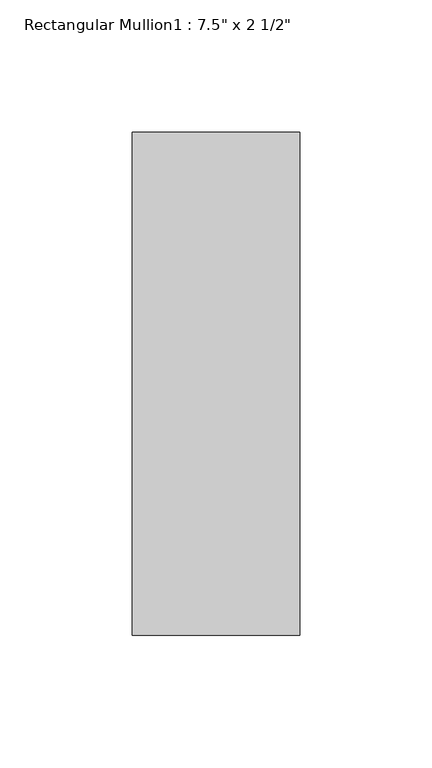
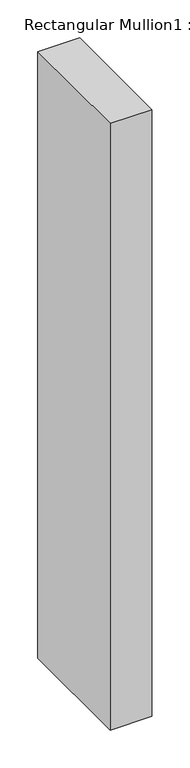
"""IFC4 building model written with IfcOpenShell, lengths in millimetres: member geometry."""

import ifcopenshell
import ifcopenshell.guid

model = None  # the IFC model being written
_history = None  # IfcOwnerHistory: only IFC2X3 demands one
_inside = {}  # id of a spatial element -> (the spatial element, [elements in it])
_under = {}  # id of a project, library or spatial element -> (it, [spatial elements below it])
_declared = {}  # id of a project -> (the project, [libraries it declares])
_typed = {}  # id of a type object -> (the type object, [elements of that type])
_made_of = {}  # id of a material, layer set ... -> (it, [elements and type objects made of it])


def new_model(schema):
    """Start an empty IFC model of exactly this schema.

    Asked for "IFC4X3", IfcOpenShell would pick the latest addendum, in which some entities
    have other attributes; the version numbers below select the first issue.
    IFC2X3 requires an IfcOwnerHistory on every rooted entity: one is made here for all.
    """
    global model, _history
    if schema == "IFC4X3":
        model = ifcopenshell.file(schema_version=(4, 3, 0, 0))
    else:
        model = ifcopenshell.file(schema=schema)
    _inside.clear()
    _under.clear()
    _declared.clear()
    _typed.clear()
    _made_of.clear()
    _history = None
    if model.schema == "IFC2X3":
        org = make("IfcOrganization", Name="unknown")
        user = make(
            "IfcPersonAndOrganization",
            ThePerson=make("IfcPerson", FamilyName="unknown"),
            TheOrganization=org,
        )
        app = make(
            "IfcApplication",
            ApplicationDeveloper=org,
            Version="unknown",
            ApplicationFullName="unknown",
            ApplicationIdentifier="unknown",
        )
        _history = make(
            "IfcOwnerHistory",
            OwningUser=user,
            OwningApplication=app,
            ChangeAction="ADDED",
            CreationDate=0,
        )
    return model


def make(cls, **values):
    """One entity of the class cls with the attributes given. An attribute that is None is left unset."""
    return model.create_entity(
        cls, **{name: value for name, value in values.items() if value is not None}
    )


def rooted(cls, **values):
    """An entity with a GlobalId (a new one), such as an element, a storey or a relation."""
    return make(cls, GlobalId=ifcopenshell.guid.new(), OwnerHistory=_history, **values)


def si_unit(unit_type, name, prefix=None):
    """IfcSIUnit, for example si_unit("LENGTHUNIT", "METRE", prefix="MILLI")."""
    return make("IfcSIUnit", UnitType=unit_type, Prefix=prefix, Name=name)


def assignment(units):
    """IfcUnitAssignment: the units of a project."""
    return None if units is None else make("IfcUnitAssignment", Units=units)


def point(xyz):
    """IfcCartesianPoint."""
    return None if xyz is None else make("IfcCartesianPoint", Coordinates=xyz)


def direction(xyz):
    """IfcDirection."""
    return None if xyz is None else make("IfcDirection", DirectionRatios=xyz)


def frame(location, z_axis=None, x_axis=None):
    """IfcAxis2Placement3D, a coordinate frame: its origin and axes. An axis left out is left unset."""
    return make(
        "IfcAxis2Placement3D",
        Location=point(location),
        Axis=direction(z_axis),
        RefDirection=direction(x_axis),
    )


def origin():
    """The frame at (0, 0, 0) with its axes left unset."""
    return frame((0.0, 0.0, 0.0))


def place(relative_to, where):
    """IfcLocalPlacement: puts the frame where relative to a parent placement (None: the world)."""
    return make(
        "IfcLocalPlacement", PlacementRelTo=relative_to, RelativePlacement=where
    )


def context(
    kind, dimensions, precision=None, world=None, true_north=None, identifier=None
):
    """IfcGeometricRepresentationContext, for example the 3D "Model" context."""
    return make(
        "IfcGeometricRepresentationContext",
        ContextIdentifier=identifier,
        ContextType=kind,
        CoordinateSpaceDimension=dimensions,
        Precision=precision,
        WorldCoordinateSystem=world,
        TrueNorth=true_north,
    )


def project(units=None, contexts=None):
    """IfcProject with its units and contexts."""
    return rooted(
        "IfcProject",
        Name="project",
        RepresentationContexts=contexts,
        UnitsInContext=assignment(units),
    )


def spatial(cls, under=None, at=None, **own):
    """A site, building, storey or space (cls), placed at a placement, below another one or the project."""
    s = rooted(cls, ObjectPlacement=at, **own)
    if under is not None:
        _under.setdefault(under.id(), (under, []))[1].append(s)
    return s


def polyline(points):
    """IfcPolyline through the points."""
    return make("IfcPolyline", Points=[point(p) for p in points])


def outline(outer, holes=None, kind="AREA"):
    """IfcArbitraryClosedProfileDef: a profile drawn as a closed curve; with holes, ...WithVoids."""
    if holes is None:
        return make("IfcArbitraryClosedProfileDef", ProfileType=kind, OuterCurve=outer)
    return make(
        "IfcArbitraryProfileDefWithVoids",
        ProfileType=kind,
        OuterCurve=outer,
        InnerCurves=holes,
    )


def extrude(swept, where, along, depth):
    """IfcExtrudedAreaSolid: the profile swept, set in the frame where, extruded along a direction by depth."""
    return make(
        "IfcExtrudedAreaSolid",
        SweptArea=swept,
        Position=where,
        ExtrudedDirection=direction(along),
        Depth=depth,
    )


def shape(context_of_items, identifier, shape_type, items):
    """IfcShapeRepresentation: the items that make up one representation, for example the "Body"."""
    return make(
        "IfcShapeRepresentation",
        ContextOfItems=context_of_items,
        RepresentationIdentifier=identifier,
        RepresentationType=shape_type,
        Items=items,
    )


def source(mapping_origin, context_of_items, identifier, shape_type, items):
    """IfcRepresentationMap: a shape defined once, which mapped items show again and again."""
    return make(
        "IfcRepresentationMap",
        MappingOrigin=mapping_origin,
        MappedRepresentation=shape(context_of_items, identifier, shape_type, items),
    )


def transform(
    local_origin,
    x_axis=None,
    y_axis=None,
    z_axis=None,
    scale=None,
    scale2=None,
    scale3=None,
    uniform=True,
):
    """IfcCartesianTransformationOperator3D, or its non-uniform kind. x_axis, y_axis, z_axis: its Axis1, 2, 3."""
    if uniform:
        return make(
            "IfcCartesianTransformationOperator3D",
            Axis1=direction(x_axis),
            Axis2=direction(y_axis),
            LocalOrigin=point(local_origin),
            Scale=scale,
            Axis3=direction(z_axis),
        )
    return make(
        "IfcCartesianTransformationOperator3DnonUniform",
        Axis1=direction(x_axis),
        Axis2=direction(y_axis),
        LocalOrigin=point(local_origin),
        Scale=scale,
        Axis3=direction(z_axis),
        Scale2=scale2,
        Scale3=scale3,
    )


def mapped(mapping_source, mapping_target):
    """IfcMappedItem: shows the shape of a source again, moved by a transform."""
    return make(
        "IfcMappedItem", MappingSource=mapping_source, MappingTarget=mapping_target
    )


def made_of(thing, what):
    """Note that an element or type object is made of a material, layer set ...; save() writes the relation."""
    if what is not None:
        _made_of.setdefault(what.id(), (what, []))[1].append(thing)
    return thing


def element(
    cls,
    number,
    at=None,
    inside=None,
    cuts=None,
    type_object=None,
    material=None,
    context=None,
    identifier="Body",
    shape_type=None,
    held_by="IfcProductDefinitionShape",
    body=None,
    shapes=None,
    **own,
):
    """One element of the class cls, such as IfcWall. Its Tag is "e" and its number.

    at: its placement. inside: the storey or other place that contains it. cuts: it is an
    opening in that element (IfcRelVoidsElement). A single representation is given by context,
    identifier, shape_type and body (its items); several are given by shapes. held_by: the class
    of the entity that holds the representations. save() writes the other relations.
    """
    e = rooted(cls, Tag="e%d" % number, ObjectPlacement=at, **own)
    if body is not None:
        shapes = [shape(context, identifier, shape_type, body)]
    if shapes is not None:
        e.Representation = make(held_by, Representations=shapes)
    if inside is not None:
        _inside.setdefault(inside.id(), (inside, []))[1].append(e)
    if cuts is not None:
        rooted(
            "IfcRelVoidsElement", RelatingBuildingElement=cuts, RelatedOpeningElement=e
        )
    if type_object is not None:
        _typed.setdefault(type_object.id(), (type_object, []))[1].append(e)
    return made_of(e, material)


def aggregate(whole, parts):
    """IfcRelAggregates: a whole, such as a stair, and the parts it consists of."""
    return rooted("IfcRelAggregates", RelatingObject=whole, RelatedObjects=parts)


def save(model, path):
    """Write the relations noted so far, then the file.

    IfcRelAggregates (storeys below a building ...), IfcRelContainedInSpatialStructure (elements
    in a storey), IfcRelDefinesByType, IfcRelAssociatesMaterial and IfcRelDeclares: one each for
    every whole, place, type object, material and project.
    """
    for whole, parts in _under.values():
        aggregate(whole, parts)
    for where, things in _inside.values():
        rooted(
            "IfcRelContainedInSpatialStructure",
            RelatedElements=things,
            RelatingStructure=where,
        )
    for kind, things in _typed.values():
        rooted("IfcRelDefinesByType", RelatedObjects=things, RelatingType=kind)
    for what, things in _made_of.values():
        rooted("IfcRelAssociatesMaterial", RelatedObjects=things, RelatingMaterial=what)
    for by, libraries in _declared.values():
        rooted("IfcRelDeclares", RelatingContext=by, RelatedDefinitions=libraries)
    model.write(path)


def member_8b628d94(model_context):
    return source(origin(), model_context, "Body", "SweptSolid", [
        extrude(outline(polyline([(0.0, 165.1), (0.0, -25.4), (-63.5, -25.4), (-63.5, 165.1), (0.0, 165.1)])), frame((0.0, 0.0, -977.9), z_axis=(0.0, 0.0, 1.0), x_axis=(1.0, 0.0, 0.0)), (0.0, 0.0, 1.0), 977.9),
    ])


if __name__ == "__main__":
    model = new_model("IFC4")
    model_context = context("Model", 3, world=origin())
    ifc_project = project(units=[si_unit("LENGTHUNIT", "METRE", prefix="MILLI")], contexts=[model_context])
    site = spatial("IfcSite", under=ifc_project)
    building = spatial("IfcBuilding", under=site)
    placement = place(None, origin())
    member_shape = member_8b628d94(model_context)
    element("IfcMember", 1, ObjectType="Rectangular Mullion1 : 7.5\" x 2 1/2\"", at=placement, inside=building, context=model_context, shape_type="MappedRepresentation", body=[
        mapped(member_shape, transform((0.0, 0.0, 0.0), x_axis=(1.0, 0.0, 0.0), y_axis=(0.0, 1.0, 0.0), z_axis=(0.0, 0.0, 1.0))),
    ])
    save(model, "model.ifc")
